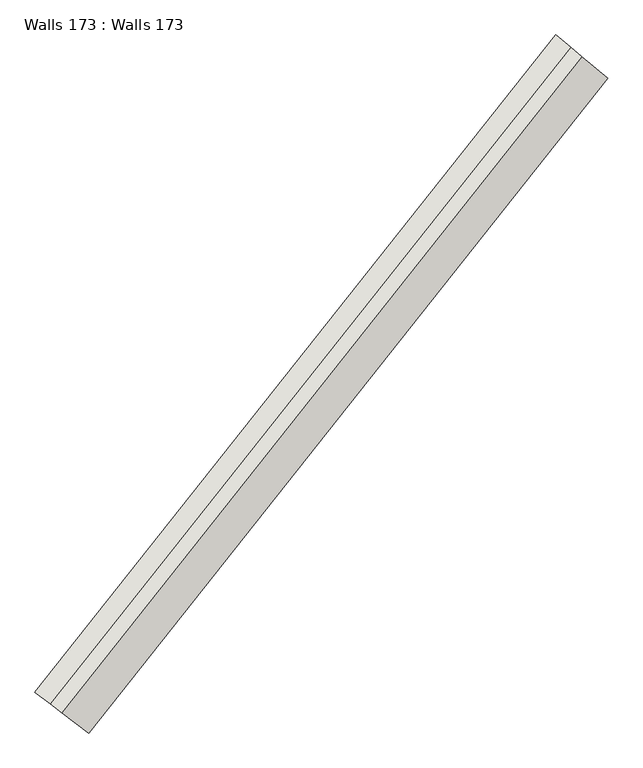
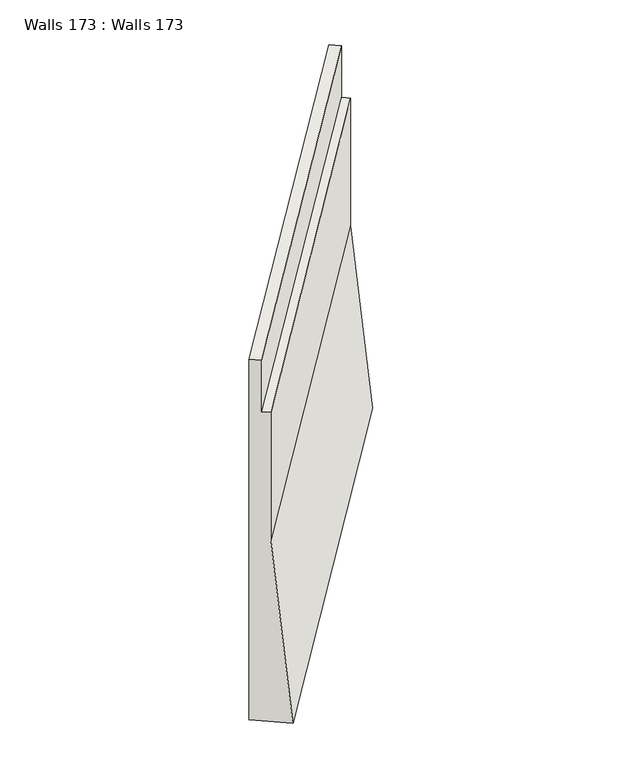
"""IFC4 building model written with IfcOpenShell, lengths in millimetres: wall geometry, Walls 173 : Walls 173."""

from ifc_helpers import new_model, si_unit, frame, origin, place, context, project, spatial, source, transform, mapped, element, save
from ifc_brep_helpers import plane_surface, spline_curve, spline_surface, advanced_brep


def walls_173_walls_173_cf990c95(model_context):
    return source(origin(), model_context, "Body", "AdvancedBrep", [
        advanced_brep(
        [(222132.1000458, 125066.5146981, 642910.0), (221852.6023387, 125277.1827585, 646410.0), (221852.6023387, 125277.1827585, 648910.0), (221732.8176071, 125367.4690702, 648910.0), (221732.8176071, 125367.4690702, 649910.0), (221573.1046316, 125487.850819, 649910.0), (221573.1046316, 125487.850819, 642910.0), (227513.5235965, 131858.2821968, 643020.0), (226975.537644, 132306.1338629, 643020.0), (226975.537644, 132306.1338629, 649990.0), (227129.2479161, 132178.1762441, 649990.0), (227129.2479161, 132178.1762441, 648990.0), (227244.5306202, 132082.2080299, 648990.0), (227244.5306202, 132082.2080299, 646520.0)],
        [
            (0, 1),
            (1, 2),
            (2, 3),
            (3, 4),
            (4, 5),
            (5, 6),
            (6, 0),
            (7, 8),
            (8, 9),
            (9, 10),
            (10, 11),
            (11, 12),
            (12, 13),
            (13, 7),
            (11, 3, spline_curve(3, [(227129.2479161, 132178.1762441, 648990.0), (225275.923981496, 129951.853740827, 648963.333333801), (223476.413481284, 127680.734061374, 648936.666666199), (221732.8176071, 125367.4690702, 648910.0)], [4, 4], [0.0, 28.500563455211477])),
            (2, 12, spline_curve(3, [(221852.6023387, 125277.1827585, 648910.0), (223594.743600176, 127588.51788437, 648936.666666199), (225392.752840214, 129857.742858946, 648963.333333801), (227244.5306202, 132082.2080299, 648990.0)], [4, 4], [0.0, 28.500563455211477])),
            (9, 5, spline_curve(3, [(226975.537644, 132306.1338629, 649990.0), (225120.152170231, 130077.334917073, 649963.333333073), (223318.639989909, 127803.688964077, 649936.666666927), (221573.1046316, 125487.850819, 649910.0)], [4, 4], [0.0, 28.52831238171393])),
            (4, 10, spline_curve(3, [(221732.8176071, 125367.4690702, 649910.0), (223476.413481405, 127680.734061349, 649936.666666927), (225275.923981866, 129951.853741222, 649963.333333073), (227129.2479161, 132178.1762441, 649990.0)], [4, 4], [0.0, 28.52831238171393])),
            (8, 6, spline_curve(3, [(226975.537644, 132306.1338629, 643020.0), (225120.152170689, 130077.334916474, 642983.333333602), (223318.639989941, 127803.688964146, 642946.666666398), (221573.1046316, 125487.850819, 642910.0)], [4, 4], [0.0, 28.544663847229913])),
            (7, 0, spline_curve(3, [(227513.5235965, 131858.2821968, 643020.0), (225665.353510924, 129638.150801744, 642983.333333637), (223870.847211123, 127373.34680608, 642946.666666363), (222132.1000458, 125066.5146981, 642910.0)], [4, 4], [0.0, 28.489747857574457])),
            (13, 1, spline_curve(3, [(227244.5306202, 132082.2080299, 646520.0), (225392.752840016, 129857.742859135, 646483.333333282), (223594.743600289, 127588.517884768, 646446.666666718), (221852.6023387, 125277.1827585, 646410.0)], [4, 4], [0.0, 28.461999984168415])),
        ],
        [
            plane_surface(frame((221778.4498858, 125333.0742848, 647124.2857143), z_axis=(-0.6019087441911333, -0.79856487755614, 0.0), x_axis=(-0.07946017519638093, 0.05989215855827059, 0.9950371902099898))),
            plane_surface(frame((227173.1651367, 132141.6169244, 647217.1428571), z_axis=(0.639788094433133, 0.7685513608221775, 0.0), x_axis=(-0.07647371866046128, 0.06366129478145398, 0.9950371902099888))),
            spline_surface(3, 3, [[(227244.5306202, 132082.2080299, 648990.0), (225392.752840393, 129857.742859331, 648963.333333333), (223594.743600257, 127588.517884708, 648936.666666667), (221852.6023387, 125277.1827585, 648910.0)], [(227206.103052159, 132114.197434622, 648990.0), (225353.809887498, 129889.113153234, 648963.333333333), (223555.300227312, 127619.256610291, 648936.666666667), (221812.674094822, 125307.27819571, 648910.0)], [(227167.675484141, 132146.186839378, 648990.0), (225314.866934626, 129920.483447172, 648963.333333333), (223515.8568544, 127649.995335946, 648936.666666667), (221772.745850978, 125337.37363299, 648910.0)], [(227129.2479161, 132178.1762441, 648990.0), (225275.923981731, 129951.853741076, 648963.333333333), (223476.413481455, 127680.734061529, 648936.666666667), (221732.8176071, 125367.4690702, 648910.0)]], [4, 4], [4, 4], [0.0, 0.4921259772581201], [0.0, 28.500563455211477]),
            spline_surface(3, 3, [[(227129.2479161, 132178.1762441, 649990.0), (225275.923981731, 129951.853741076, 649963.333333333), (223476.413481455, 127680.734061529, 649936.666666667), (221732.8176071, 125367.4690702, 649910.0)], [(227078.011158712, 132220.828783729, 649990.0), (225224.000044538, 129993.680799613, 649963.333333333), (223423.822317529, 127721.719028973, 649936.666666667), (221679.579948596, 125407.596319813, 649910.0)], [(227026.774401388, 132263.481323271, 649990.0), (225172.076107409, 130035.507858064, 649963.333333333), (223371.231153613, 127762.703996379, 649936.666666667), (221626.342290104, 125447.723569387, 649910.0)], [(226975.537644, 132306.1338629, 649990.0), (225120.152170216, 130077.334916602, 649963.333333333), (223318.639989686, 127803.688963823, 649936.666666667), (221573.1046316, 125487.850819, 649910.0)]], [4, 4], [4, 4], [0.0, 0.6561679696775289], [0.0, 28.52831238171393]),
            spline_surface(3, 3, [[(226975.537644, 132306.1338629, 649990.0), (225120.152170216, 130077.334916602, 649963.333333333), (223318.639989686, 127803.688963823, 649936.666666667), (221573.1046316, 125487.850819, 649910.0)], [(226975.537644, 132306.1338629, 647666.666666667), (225120.152170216, 130077.334916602, 647636.666666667), (223318.639989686, 127803.688963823, 647606.666666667), (221573.1046316, 125487.850819, 647576.666666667)], [(226975.537644, 132306.1338629, 645343.333333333), (225120.152170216, 130077.334916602, 645310.0), (223318.639989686, 127803.688963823, 645276.666666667), (221573.1046316, 125487.850819, 645243.333333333)], [(226975.537644, 132306.1338629, 643020.0), (225120.152170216, 130077.334916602, 642983.333333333), (223318.639989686, 127803.688963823, 642946.666666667), (221573.1046316, 125487.850819, 642910.0)]], [4, 4], [4, 4], [0.0, 22.916666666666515], [0.0, 28.544663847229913]),
            spline_surface(3, 3, [[(226975.537644, 132306.1338629, 643020.0), (225120.152170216, 130077.334916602, 642983.333333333), (223318.639989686, 127803.688963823, 642946.666666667), (221573.1046316, 125487.850819, 642910.0)], [(227154.866294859, 132156.849974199, 643020.0), (225301.885950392, 129930.94021172, 642983.333333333), (223502.70906343, 127660.241577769, 642946.666666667), (221759.436436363, 125347.405445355, 642910.0)], [(227334.194945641, 132007.566085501, 643020.0), (225483.619730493, 129784.545506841, 642983.333333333), (223686.778137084, 127516.794191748, 642946.666666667), (221945.768241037, 125206.960071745, 642910.0)], [(227513.5235965, 131858.2821968, 643020.0), (225665.353510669, 129638.15080196, 642983.333333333), (223870.847210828, 127373.346805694, 642946.666666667), (222132.1000458, 125066.5146981, 642910.0)]], [4, 4], [4, 4], [0.0, 2.29658789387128], [0.0, 28.489747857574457]),
            spline_surface(3, 3, [[(227513.5235965, 131858.2821968, 643020.0), (225665.353510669, 129638.15080196, 642983.333333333), (223870.847210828, 127373.346805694, 642946.666666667), (222132.1000458, 125066.5146981, 642910.0)], [(227423.859271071, 131932.924141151, 644186.666666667), (225574.486620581, 129711.3481544, 644150.0), (223778.812673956, 127445.070498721, 644113.333333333), (222038.934143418, 125136.737384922, 644076.666666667)], [(227334.194945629, 132007.566085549, 645353.333333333), (225483.619730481, 129784.54550689, 645316.666666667), (223686.778137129, 127516.794191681, 645280.0), (221945.768241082, 125206.960071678, 645243.333333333)], [(227244.5306202, 132082.2080299, 646520.0), (225392.752840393, 129857.742859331, 646483.333333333), (223594.743600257, 127588.517884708, 646446.666666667), (221852.6023387, 125277.1827585, 646410.0)]], [4, 4], [4, 4], [0.0, 11.540211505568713], [0.0, 28.461999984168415]),
            spline_surface(3, 3, [[(227244.5306202, 132082.2080299, 646520.0), (225392.752840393, 129857.742859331, 646483.333333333), (223594.743600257, 127588.517884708, 646446.666666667), (221852.6023387, 125277.1827585, 646410.0)], [(227244.5306202, 132082.2080299, 647343.333333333), (225392.752840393, 129857.742859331, 647310.0), (223594.743600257, 127588.517884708, 647276.666666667), (221852.6023387, 125277.1827585, 647243.333333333)], [(227244.5306202, 132082.2080299, 648166.666666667), (225392.752840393, 129857.742859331, 648136.666666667), (223594.743600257, 127588.517884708, 648106.666666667), (221852.6023387, 125277.1827585, 648076.666666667)], [(227244.5306202, 132082.2080299, 648990.0), (225392.752840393, 129857.742859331, 648963.333333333), (223594.743600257, 127588.517884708, 648936.666666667), (221852.6023387, 125277.1827585, 648910.0)]], [4, 4], [4, 4], [0.0, 8.152887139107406], [0.0, 28.489166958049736]),
            spline_surface(3, 3, [[(227129.2479161, 132178.1762441, 648990.0), (225275.923981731, 129951.853741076, 648963.333333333), (223476.413481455, 127680.734061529, 648936.666666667), (221732.8176071, 125367.4690702, 648910.0)], [(227129.2479161, 132178.1762441, 649323.333333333), (225275.923981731, 129951.853741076, 649296.666666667), (223476.413481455, 127680.734061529, 649270.0), (221732.8176071, 125367.4690702, 649243.333333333)], [(227129.2479161, 132178.1762441, 649656.666666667), (225275.923981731, 129951.853741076, 649630.0), (223476.413481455, 127680.734061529, 649603.333333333), (221732.8176071, 125367.4690702, 649576.666666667)], [(227129.2479161, 132178.1762441, 649990.0), (225275.923981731, 129951.853741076, 649963.333333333), (223476.413481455, 127680.734061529, 649936.666666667), (221732.8176071, 125367.4690702, 649910.0)]], [4, 4], [4, 4], [0.0, 3.280839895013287], [0.0, 28.512455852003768]),
        ],
        [
            (0, [[1, 2, 3, 4, 5, 6, 7]]),
            (1, [[8, 9, 10, 11, 12, 13, 14]]),
            (2, [[-12, 15, -3, 16]]),
            (3, [[-10, 17, -5, 18]]),
            (4, [[-9, 19, -6, -17]]),
            (5, [[-8, 20, -7, -19]]),
            (6, [[-14, 21, -1, -20]]),
            (7, [[-13, -16, -2, -21]]),
            (8, [[-11, -18, -4, -15]]),
        ],
    ),
    ])


if __name__ == "__main__":
    model = new_model("IFC4")
    model_context = context("Model", 3, world=origin())
    ifc_project = project(units=[si_unit("LENGTHUNIT", "METRE", prefix="MILLI")], contexts=[model_context])
    site = spatial("IfcSite", under=ifc_project)
    building = spatial("IfcBuilding", under=site)
    placement = place(None, origin())
    walls_173_walls_173_shape = walls_173_walls_173_cf990c95(model_context)
    element("IfcWall", 1, ObjectType="Walls 173 : Walls 173", at=placement, inside=building, context=model_context, shape_type="MappedRepresentation", body=[
        mapped(walls_173_walls_173_shape, transform((0.0, 0.0, 0.0), x_axis=(1.0, 0.0, 0.0), y_axis=(0.0, 1.0, 0.0), z_axis=(0.0, 0.0, 1.0))),
    ])
    save(model, "model.ifc")
